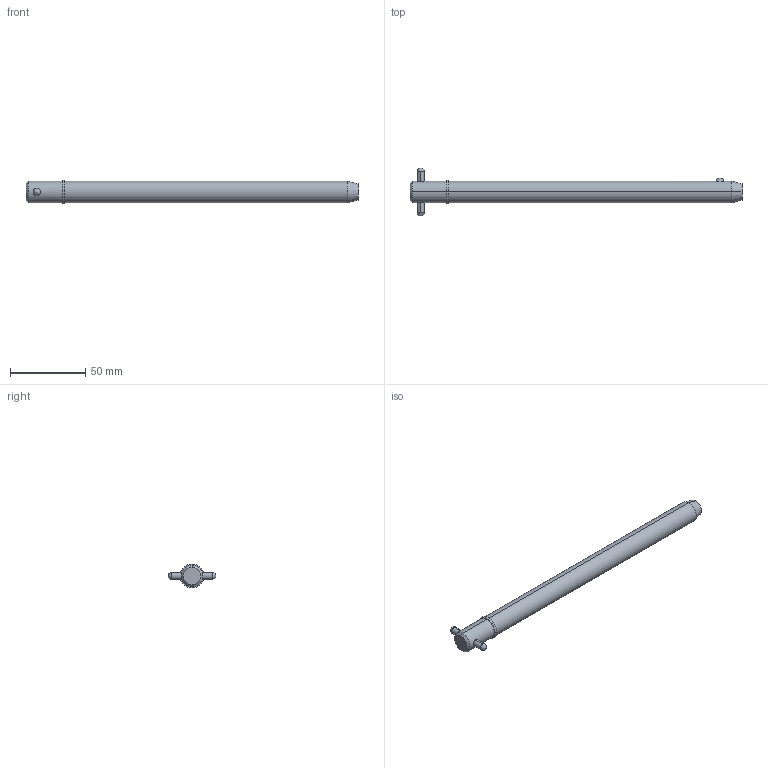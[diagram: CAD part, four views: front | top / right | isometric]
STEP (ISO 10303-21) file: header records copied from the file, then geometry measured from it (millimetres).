
FILE_DESCRIPTION (( 'STEP AP203' ), '1' );
FILE_NAME ('33018.W5670.step', '2024-11-19T17:17:50', ( '' ), ( '' ), 'SwSTEP 2.0', 'SolidWorks 2019', '' );
FILE_SCHEMA (( 'CONFIG_CONTROL_DESIGN' ));
Length unit declared in the file: millimetre
Products named in the file (3): 33018.W5670; Part2_33018.W5670; Part1_33018.W5670
Assembly tree (2 placements, depth 2):
  33018.W5670
    Part1_33018.W5670
    Part2_33018.W5670
Bounding box: 220.95 x 31.75 x 15.72 mm (x, y, z)
Volume: 35512 mm3; surface area: 10837.6 mm2
Topology: 2 solids, 2 shells, 22 faces, 47 edges, 30 vertices
Faces by surface type: cylinder 10, sphere 4, cone 4, plane 4
Entity records: 1033 total; most frequent: CARTESIAN_POINT 276, DIRECTION 110, ORIENTED_EDGE 82, AXIS2_PLACEMENT_3D 48, EDGE_CURVE 41, EDGE_LOOP 27, PERSON_AND_ORGANIZATION 26, VERTEX_POINT 26
